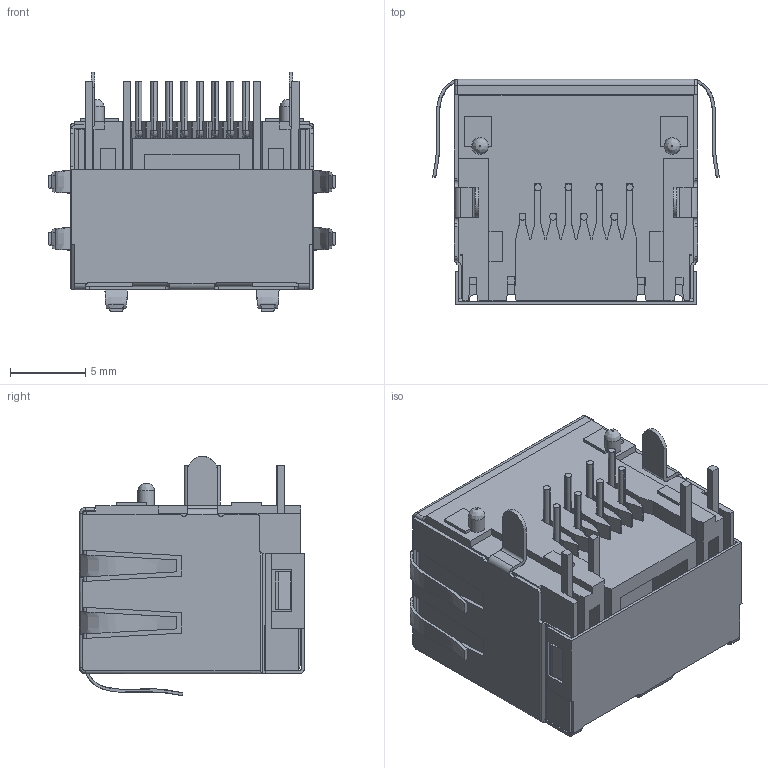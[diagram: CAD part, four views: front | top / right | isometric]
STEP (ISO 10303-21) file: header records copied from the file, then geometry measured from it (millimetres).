
FILE_DESCRIPTION(/* description */ (''),/* implementation_level */ '2;1');
FILE_NAME(/* name */ '5JE 带灯带弹弯角2.6.stp',/* time_stamp */ '2020-12-29T18:25:17+08:00',/* author */ (''),/* organization */ (''),/* preprocessor_version */ 'ST-DEVELOPER v16',/* originating_system */ 'SIEMENS PLM Software NX 10.0',/* authorisation */ '');
FILE_SCHEMA (('AUTOMOTIVE_DESIGN { 1 0 10303 214 3 1 1 1 }'));
Length unit declared in the file: millimetre
Products named in the file (1): Admi211052983iwl
Bounding box: 19.1 x 15 x 15.95 mm (x, y, z)
Volume: 1343.6 mm3; surface area: 4206.8 mm2
Topology: 16 solids, 16 shells, 934 faces, 2544 edges, 1628 vertices
Faces by surface type: plane 583, cylinder 269, revolution 64, extrusion 12, bspline 6
Full cylindrical faces by diameter (mm): 1.099 x2
Entity records: 30391 total; most frequent: CARTESIAN_POINT 6554, ORIENTED_EDGE 5072, DIRECTION 4552, EDGE_CURVE 2536, VECTOR 1784, LINE 1772, VERTEX_POINT 1624, AXIS2_PLACEMENT_3D 1352
